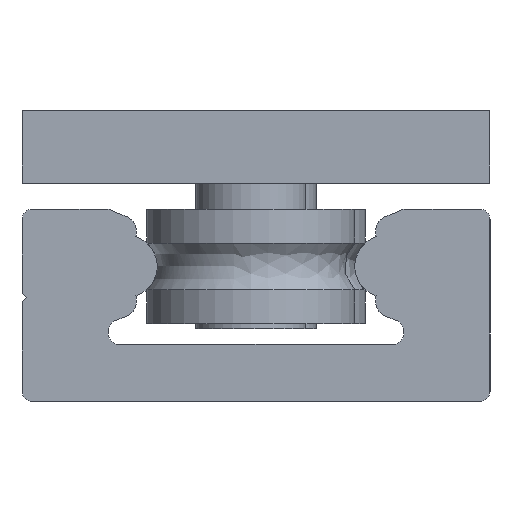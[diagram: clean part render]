
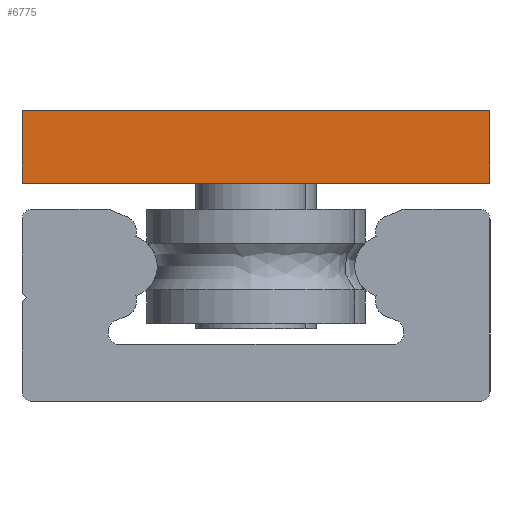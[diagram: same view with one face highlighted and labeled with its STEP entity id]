
A CAD part, left-side view. The second image highlights one B-rep face of the part: STEP entity #6775.
In plain terms, the highlighted planar face has unit normal (-1, 0, 0).
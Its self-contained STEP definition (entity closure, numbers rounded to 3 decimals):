
#6595=CARTESIAN_POINT('',(0.0,-22.5,15.));
#6596=VERTEX_POINT('',#6595);
#6603=CARTESIAN_POINT('',(0.0,-22.5,8.));
#6604=VERTEX_POINT('',#6603);
#6605=CARTESIAN_POINT('',(0.0,-22.5,15.));
#6606=DIRECTION('',(0.0,0.0,-1.0));
#6607=VECTOR('',#6606,7.);
#6608=LINE('',#6605,#6607);
#6609=EDGE_CURVE('',#6596,#6604,#6608,.T.);
#6633=CARTESIAN_POINT('',(0.0,22.5,15.));
#6634=VERTEX_POINT('',#6633);
#6641=CARTESIAN_POINT('',(0.0,22.5,15.));
#6642=DIRECTION('',(0.0,-1.0,0.0));
#6643=VECTOR('',#6642,45.0);
#6644=LINE('',#6641,#6643);
#6645=EDGE_CURVE('',#6634,#6596,#6644,.T.);
#6694=CARTESIAN_POINT('',(0.0,22.5,8.));
#6695=VERTEX_POINT('',#6694);
#6702=CARTESIAN_POINT('',(0.0,22.5,8.));
#6703=DIRECTION('',(0.0,0.0,1.0));
#6704=VECTOR('',#6703,7.0);
#6705=LINE('',#6702,#6704);
#6706=EDGE_CURVE('',#6695,#6634,#6705,.T.);
#6724=CARTESIAN_POINT('',(0.0,-22.5,8.));
#6725=DIRECTION('',(0.0,1.0,0.0));
#6726=VECTOR('',#6725,45.0);
#6727=LINE('',#6724,#6726);
#6728=EDGE_CURVE('',#6604,#6695,#6727,.T.);
#6764=CARTESIAN_POINT('',(0.0,0.,11.5));
#6765=DIRECTION('',(1.0,0.0,0.0));
#6766=DIRECTION('',(0.0,0.0,-1.0));
#6767=AXIS2_PLACEMENT_3D('',#6764,#6765,#6766);
#6768=PLANE('',#6767);
#6769=ORIENTED_EDGE('',*,*,#6728,.F.);
#6770=ORIENTED_EDGE('',*,*,#6609,.F.);
#6771=ORIENTED_EDGE('',*,*,#6645,.F.);
#6772=ORIENTED_EDGE('',*,*,#6706,.F.);
#6773=EDGE_LOOP('',(#6769,#6770,#6771,#6772));
#6774=FACE_OUTER_BOUND('',#6773,.T.);
#6775=ADVANCED_FACE('',(#6774),#6768,.F.);
